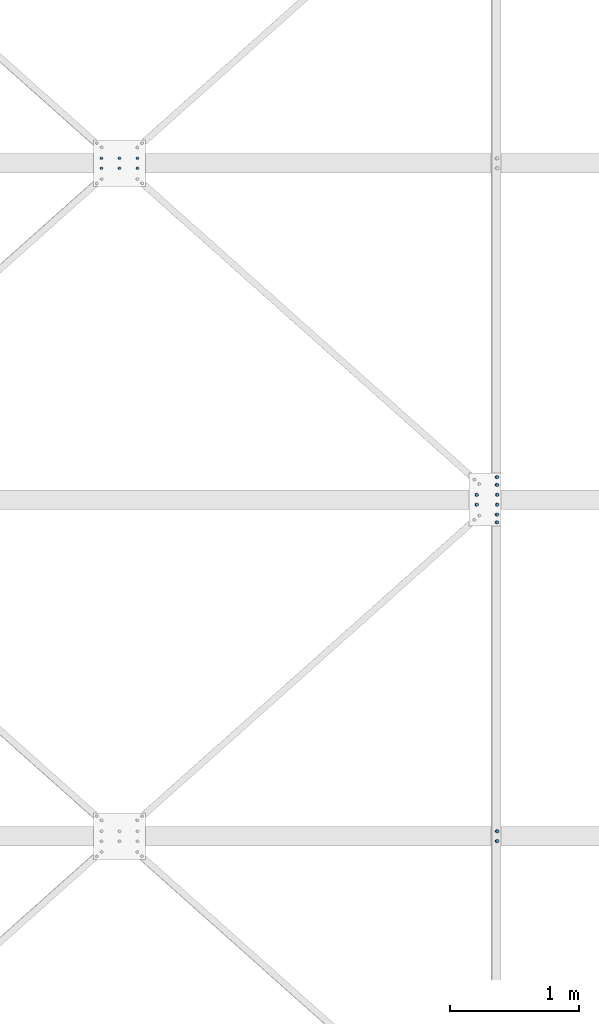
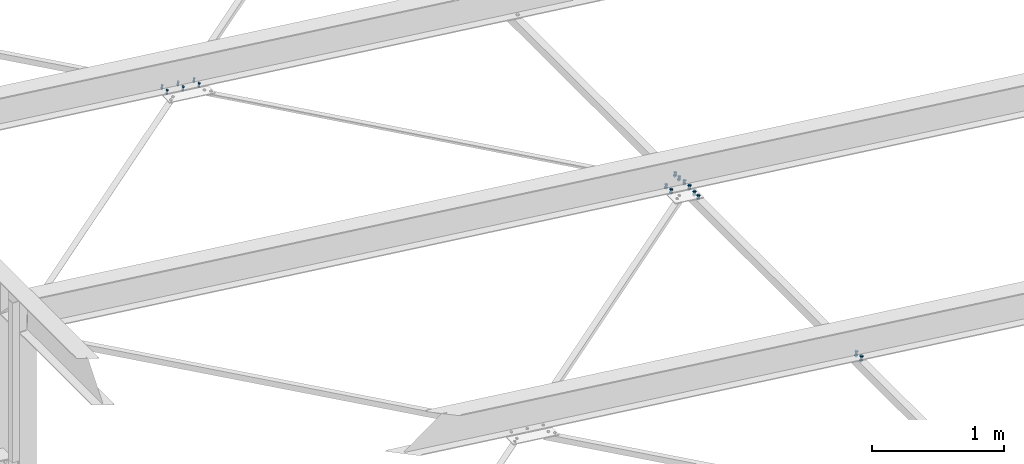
# One storey, part 144 of 3134: 5 mechanical fasteners, 4 elements without a shape of their own.
"""IFC2X3 building model written with IfcOpenShell, lengths in millimetres."""

import ifcopenshell
import ifcopenshell.guid

model = None  # the IFC model being written
_history = None  # IfcOwnerHistory: only IFC2X3 demands one
_inside = {}  # id of a spatial element -> (the spatial element, [elements in it])
_under = {}  # id of a project, library or spatial element -> (it, [spatial elements below it])
_declared = {}  # id of a project -> (the project, [libraries it declares])
_typed = {}  # id of a type object -> (the type object, [elements of that type])
_made_of = {}  # id of a material, layer set ... -> (it, [elements and type objects made of it])


def new_model(schema):
    """Start an empty IFC model of exactly this schema.

    Asked for "IFC4X3", IfcOpenShell would pick the latest addendum, in which some entities
    have other attributes; the version numbers below select the first issue.
    IFC2X3 requires an IfcOwnerHistory on every rooted entity: one is made here for all.
    """
    global model, _history
    if schema == "IFC4X3":
        model = ifcopenshell.file(schema_version=(4, 3, 0, 0))
    else:
        model = ifcopenshell.file(schema=schema)
    _inside.clear()
    _under.clear()
    _declared.clear()
    _typed.clear()
    _made_of.clear()
    _history = None
    if model.schema == "IFC2X3":
        org = make("IfcOrganization", Name="unknown")
        user = make(
            "IfcPersonAndOrganization",
            ThePerson=make("IfcPerson", FamilyName="unknown"),
            TheOrganization=org,
        )
        app = make(
            "IfcApplication",
            ApplicationDeveloper=org,
            Version="unknown",
            ApplicationFullName="unknown",
            ApplicationIdentifier="unknown",
        )
        _history = make(
            "IfcOwnerHistory",
            OwningUser=user,
            OwningApplication=app,
            ChangeAction="ADDED",
            CreationDate=0,
        )
    return model


def make(cls, **values):
    """One entity of the class cls with the attributes given. An attribute that is None is left unset."""
    return model.create_entity(
        cls, **{name: value for name, value in values.items() if value is not None}
    )


def rooted(cls, **values):
    """An entity with a GlobalId (a new one), such as an element, a storey or a relation."""
    return make(cls, GlobalId=ifcopenshell.guid.new(), OwnerHistory=_history, **values)


def si_unit(unit_type, name, prefix=None):
    """IfcSIUnit, for example si_unit("LENGTHUNIT", "METRE", prefix="MILLI")."""
    return make("IfcSIUnit", UnitType=unit_type, Prefix=prefix, Name=name)


def assignment(units):
    """IfcUnitAssignment: the units of a project."""
    return None if units is None else make("IfcUnitAssignment", Units=units)


def point(xyz):
    """IfcCartesianPoint."""
    return None if xyz is None else make("IfcCartesianPoint", Coordinates=xyz)


def direction(xyz):
    """IfcDirection."""
    return None if xyz is None else make("IfcDirection", DirectionRatios=xyz)


def frame(location, z_axis=None, x_axis=None):
    """IfcAxis2Placement3D, a coordinate frame: its origin and axes. An axis left out is left unset."""
    return make(
        "IfcAxis2Placement3D",
        Location=point(location),
        Axis=direction(z_axis),
        RefDirection=direction(x_axis),
    )


def origin_with_axes():
    """The frame at (0, 0, 0) with the z axis (0, 0, 1) and the x axis (1, 0, 0) written out."""
    return frame((0.0, 0.0, 0.0), z_axis=(0.0, 0.0, 1.0), x_axis=(1.0, 0.0, 0.0))


def place(relative_to, where):
    """IfcLocalPlacement: puts the frame where relative to a parent placement (None: the world)."""
    return make(
        "IfcLocalPlacement", PlacementRelTo=relative_to, RelativePlacement=where
    )


def context(
    kind, dimensions, precision=None, world=None, true_north=None, identifier=None
):
    """IfcGeometricRepresentationContext, for example the 3D "Model" context."""
    return make(
        "IfcGeometricRepresentationContext",
        ContextIdentifier=identifier,
        ContextType=kind,
        CoordinateSpaceDimension=dimensions,
        Precision=precision,
        WorldCoordinateSystem=world,
        TrueNorth=true_north,
    )


def subcontext(parent, identifier, kind, view, scale=None):
    """IfcGeometricRepresentationSubContext, for example "Body" below "Model"."""
    return make(
        "IfcGeometricRepresentationSubContext",
        ContextIdentifier=identifier,
        ContextType=kind,
        ParentContext=parent,
        TargetScale=scale,
        TargetView=view,
    )


def project(units=None, contexts=None):
    """IfcProject with its units and contexts."""
    return rooted(
        "IfcProject",
        Name="project",
        RepresentationContexts=contexts,
        UnitsInContext=assignment(units),
    )


def spatial(cls, under=None, at=None, **own):
    """A site, building, storey or space (cls), placed at a placement, below another one or the project."""
    s = rooted(cls, ObjectPlacement=at, **own)
    if under is not None:
        _under.setdefault(under.id(), (under, []))[1].append(s)
    return s


def faces_of(points, faces, orient=None, outer=None):
    """IfcFace entities. A face is a list of loops; a loop is a list of indices into points, from 0.

    orient and outer hold one flag for each loop. By default every Orientation is true, the
    first loop of a face is its IfcFaceOuterBound and the others are IfcFaceBound.
    """
    made = []
    for i, loops in enumerate(faces):
        bounds = []
        for j, loop in enumerate(loops):
            is_outer = j == 0 if outer is None else outer[i][j]
            bounds.append(
                make(
                    "IfcFaceOuterBound" if is_outer else "IfcFaceBound",
                    Bound=make("IfcPolyLoop", Polygon=[points[k] for k in loop]),
                    Orientation=True if orient is None else orient[i][j],
                )
            )
        made.append(make("IfcFace", Bounds=bounds))
    return made


def faceted_brep(points, faces, orient=None, outer=None, voids=None):
    """IfcFacetedBrep: a solid bounded by flat faces; with voids (closed shells), ...WithVoids."""
    shared = [point(p) for p in points]
    hull = make("IfcClosedShell", CfsFaces=faces_of(shared, faces, orient, outer))
    if voids is None:
        return make("IfcFacetedBrep", Outer=hull)
    return make(
        "IfcFacetedBrepWithVoids",
        Outer=hull,
        Voids=[
            make(cls, CfsFaces=faces_of(shared, fs, o, b)) for cls, fs, o, b in voids
        ],
    )


def shape(context_of_items, identifier, shape_type, items):
    """IfcShapeRepresentation: the items that make up one representation, for example the "Body"."""
    return make(
        "IfcShapeRepresentation",
        ContextOfItems=context_of_items,
        RepresentationIdentifier=identifier,
        RepresentationType=shape_type,
        Items=items,
    )


def source(mapping_origin, context_of_items, identifier, shape_type, items):
    """IfcRepresentationMap: a shape defined once, which mapped items show again and again."""
    return make(
        "IfcRepresentationMap",
        MappingOrigin=mapping_origin,
        MappedRepresentation=shape(context_of_items, identifier, shape_type, items),
    )


def transform(
    local_origin,
    x_axis=None,
    y_axis=None,
    z_axis=None,
    scale=None,
    scale2=None,
    scale3=None,
    uniform=True,
):
    """IfcCartesianTransformationOperator3D, or its non-uniform kind. x_axis, y_axis, z_axis: its Axis1, 2, 3."""
    if uniform:
        return make(
            "IfcCartesianTransformationOperator3D",
            Axis1=direction(x_axis),
            Axis2=direction(y_axis),
            LocalOrigin=point(local_origin),
            Scale=scale,
            Axis3=direction(z_axis),
        )
    return make(
        "IfcCartesianTransformationOperator3DnonUniform",
        Axis1=direction(x_axis),
        Axis2=direction(y_axis),
        LocalOrigin=point(local_origin),
        Scale=scale,
        Axis3=direction(z_axis),
        Scale2=scale2,
        Scale3=scale3,
    )


def mapped(mapping_source, mapping_target):
    """IfcMappedItem: shows the shape of a source again, moved by a transform."""
    return make(
        "IfcMappedItem", MappingSource=mapping_source, MappingTarget=mapping_target
    )


def material(Name=None, Category=None):
    """IfcMaterial."""
    return make("IfcMaterial", Name=Name, Category=Category)


def made_of(thing, what):
    """Note that an element or type object is made of a material, layer set ...; save() writes the relation."""
    if what is not None:
        _made_of.setdefault(what.id(), (what, []))[1].append(thing)
    return thing


def type_object(cls, material=None, **own):
    """A type object (cls), such as IfcWallType, which elements share."""
    return made_of(rooted(cls, **own), material)


def element(
    cls,
    number,
    at=None,
    inside=None,
    cuts=None,
    type_object=None,
    material=None,
    context=None,
    identifier="Body",
    shape_type=None,
    held_by="IfcProductDefinitionShape",
    body=None,
    shapes=None,
    **own,
):
    """One element of the class cls, such as IfcWall. Its Tag is "e" and its number.

    at: its placement. inside: the storey or other place that contains it. cuts: it is an
    opening in that element (IfcRelVoidsElement). A single representation is given by context,
    identifier, shape_type and body (its items); several are given by shapes. held_by: the class
    of the entity that holds the representations. save() writes the other relations.
    """
    e = rooted(cls, Tag="e%d" % number, ObjectPlacement=at, **own)
    if body is not None:
        shapes = [shape(context, identifier, shape_type, body)]
    if shapes is not None:
        e.Representation = make(held_by, Representations=shapes)
    if inside is not None:
        _inside.setdefault(inside.id(), (inside, []))[1].append(e)
    if cuts is not None:
        rooted(
            "IfcRelVoidsElement", RelatingBuildingElement=cuts, RelatedOpeningElement=e
        )
    if type_object is not None:
        _typed.setdefault(type_object.id(), (type_object, []))[1].append(e)
    return made_of(e, material)


def aggregate(whole, parts):
    """IfcRelAggregates: a whole, such as a stair, and the parts it consists of."""
    return rooted("IfcRelAggregates", RelatingObject=whole, RelatedObjects=parts)


def save(model, path):
    """Write the relations noted so far, then the file.

    IfcRelAggregates (storeys below a building ...), IfcRelContainedInSpatialStructure (elements
    in a storey), IfcRelDefinesByType, IfcRelAssociatesMaterial and IfcRelDeclares: one each for
    every whole, place, type object, material and project.
    """
    for whole, parts in _under.values():
        aggregate(whole, parts)
    for where, things in _inside.values():
        rooted(
            "IfcRelContainedInSpatialStructure",
            RelatedElements=things,
            RelatingStructure=where,
        )
    for kind, things in _typed.values():
        rooted("IfcRelDefinesByType", RelatedObjects=things, RelatingType=kind)
    for what, things in _made_of.values():
        rooted("IfcRelAssociatesMaterial", RelatedObjects=things, RelatingMaterial=what)
    for by, libraries in _declared.values():
        rooted("IfcRelDeclares", RelatingContext=by, RelatedDefinitions=libraries)
    model.write(path)


model = new_model("IFC2X3")

# Units and contexts
model_context = context("Model", 3, precision=1e-05, world=origin_with_axes())
body_context = subcontext(model_context, "Body", "Model", "MODEL_VIEW")
ifc_project = project(units=[si_unit("LENGTHUNIT", "METRE", prefix="MILLI"), si_unit("AREAUNIT", "SQUARE_METRE"), si_unit("VOLUMEUNIT", "CUBIC_METRE"), si_unit("MASSUNIT", "GRAM", prefix="KILO"), si_unit("TIMEUNIT", "SECOND"), si_unit("PLANEANGLEUNIT", "RADIAN"), si_unit("SOLIDANGLEUNIT", "STERADIAN"), si_unit("THERMODYNAMICTEMPERATUREUNIT", "DEGREE_CELSIUS"), si_unit("LUMINOUSINTENSITYUNIT", "LUMEN")], contexts=[model_context])

# Site, building, storey
site_placement = place(None, origin_with_axes())
site = spatial("IfcSite", under=ifc_project, at=site_placement, CompositionType="ELEMENT")
building_placement = place(site_placement, origin_with_axes())
building = spatial("IfcBuilding", under=site, at=building_placement, Name="Undefined", CompositionType="ELEMENT")
storey_placement = place(building_placement, origin_with_axes())
storey = spatial("IfcBuildingStorey", under=building, at=storey_placement, Name="Undefined", CompositionType="ELEMENT", Elevation=0.0)

# Assembly, mechanical fastener
assembly_1_placement = place(storey_placement, origin_with_axes())
assembly_1 = element("IfcElementAssembly", 1, at=assembly_1_placement, inside=storey, Name="300", AssemblyPlace="NOTDEFINED", PredefinedType="RIGID_FRAME")
ifc_material = material(Name="8.8")
mechanical_fastener_type = type_object("IfcMechanicalFastenerType", Name="Bolt assembly")
shared_shape_1 = source(origin_with_axes(), body_context, "Body", "Brep", [
    faceted_brep([(13.856406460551, -19.199990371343, 0.0), (6.92820323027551, -19.199990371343, 12.0), (-6.92820323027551, -19.199990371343, 12.0), (-13.856406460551, -19.199990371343, 1.69692038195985e-15), (-6.92820323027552, -19.199990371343, -12.0), (6.9282032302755, -19.199990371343, -12.0), (6.9282032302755, -9.19999037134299, -12.0), (-6.92820323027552, -9.19999037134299, -12.0), (-13.856406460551, -9.19999037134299, 1.69692038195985e-15), (-6.92820323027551, -9.19999037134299, 12.0), (6.92820323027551, -9.19999037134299, 12.0), (13.856406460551, -9.19999037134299, 0.0), (8.0, -9.19999037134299, 0.0), (6.92820323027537, -9.19999037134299, 4.00000000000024), (3.99999999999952, -9.19999037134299, 6.92820323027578), (-8.29068785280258e-13, -9.19999037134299, 8.0), (-4.00000000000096, -9.19999037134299, 6.92820323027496), (-6.9282032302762, -9.19999037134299, 3.99999999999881), (-8.0, -9.19999037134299, -1.65813757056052e-12), (-6.92820323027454, -9.19999037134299, -4.00000000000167), (-3.99999999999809, -9.19999037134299, -6.92820323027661), (2.47832457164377e-12, -9.19999037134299, -8.0), (4.00000000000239, -9.19999037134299, -6.92820323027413), (6.92820323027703, -9.19999037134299, -3.99999999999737), (6.92820323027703, 25.800009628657, -3.99999999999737), (4.00000000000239, 25.800009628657, -6.92820323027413), (2.47832457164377e-12, 25.800009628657, -8.0), (-3.99999999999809, 25.800009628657, -6.92820323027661), (-6.92820323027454, 25.800009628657, -4.00000000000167), (-8.0, 25.800009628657, -1.65813757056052e-12), (-6.9282032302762, 25.800009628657, 3.99999999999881), (-4.00000000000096, 25.800009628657, 6.92820323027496), (-8.29068785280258e-13, 25.800009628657, 8.0), (3.99999999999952, 25.800009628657, 6.92820323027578), (6.92820323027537, 25.800009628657, 4.00000000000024), (8.0, 25.800009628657, 0.0), (13.856406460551, 8.00000637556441, 0.0), (6.92820323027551, 8.00000637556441, 12.0), (-6.92820323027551, 8.00000637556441, 12.0), (-13.856406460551, 8.00000637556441, 1.69692038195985e-15), (-6.92820323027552, 8.00000637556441, -12.0), (6.9282032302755, 8.00000637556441, -12.0), (6.9282032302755, 21.0000063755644, -12.0), (-6.92820323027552, 21.0000063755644, -12.0), (-13.856406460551, 21.0000063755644, 1.69692038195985e-15), (-6.92820323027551, 21.0000063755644, 12.0), (6.92820323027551, 21.0000063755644, 12.0), (13.856406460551, 21.0000063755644, 0.0)], [[[0, 1, 2, 3, 4, 5]], [[6, 7, 8, 9, 10, 11]], [[0, 11, 10, 1]], [[1, 10, 9, 2]], [[2, 9, 8, 3]], [[3, 8, 7, 4]], [[4, 7, 6, 5]], [[5, 6, 11, 0]], [[12, 13, 14, 15, 16, 17, 18, 19, 20, 21, 22, 23]], [[24, 25, 26, 27, 28, 29, 30, 31, 32, 33, 34, 35]], [[12, 35, 34, 13]], [[13, 34, 33, 14]], [[14, 33, 32, 15]], [[15, 32, 31, 16]], [[16, 31, 30, 17]], [[17, 30, 29, 18]], [[18, 29, 28, 19]], [[19, 28, 27, 20]], [[20, 27, 26, 21]], [[21, 26, 25, 22]], [[22, 25, 24, 23]], [[23, 24, 35, 12]], [[36, 37, 38, 39, 40, 41]], [[42, 43, 44, 45, 46, 47]], [[36, 47, 46, 37]], [[37, 46, 45, 38]], [[38, 45, 44, 39]], [[39, 44, 43, 40]], [[40, 43, 42, 41]], [[41, 42, 47, 36]]]),
    faceted_brep([(9.0, -0.1, 0.0), (7.79422863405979, -0.1, 4.50000000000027), (4.49999999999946, -0.1, 7.79422863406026), (-9.3270238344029e-13, -0.1, 9.0), (-4.50000000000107, -0.1, 7.79422863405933), (-7.79422863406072, -0.1, 4.49999999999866), (-9.0, -0.1, -1.86540476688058e-12), (-7.79422863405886, -0.1, -4.50000000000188), (-4.49999999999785, -0.1, -7.79422863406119), (2.78811514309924e-12, -0.1, -9.0), (4.50000000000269, -0.1, -7.7942286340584), (7.79422863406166, -0.1, -4.49999999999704), (7.79422863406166, 8.00000000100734, -4.49999999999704), (4.50000000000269, 8.00000000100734, -7.7942286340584), (2.78811514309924e-12, 8.00000000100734, -9.0), (-4.49999999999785, 8.00000000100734, -7.79422863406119), (-7.79422863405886, 8.00000000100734, -4.50000000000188), (-9.0, 8.00000000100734, -1.86540476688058e-12), (-7.79422863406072, 8.00000000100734, 4.49999999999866), (-4.50000000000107, 8.00000000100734, 7.79422863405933), (-9.3270238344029e-13, 8.00000000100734, 9.0), (4.49999999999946, 8.00000000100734, 7.79422863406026), (7.79422863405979, 8.00000000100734, 4.50000000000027), (9.0, 8.00000000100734, 0.0), (9.0, -9.09999037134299, 0.0), (7.79422863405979, -9.09999037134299, 4.50000000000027), (4.49999999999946, -9.09999037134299, 7.79422863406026), (-9.3270238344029e-13, -9.09999037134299, 9.0), (-4.50000000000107, -9.09999037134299, 7.79422863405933), (-7.79422863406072, -9.09999037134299, 4.49999999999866), (-9.0, -9.09999037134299, -1.86540476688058e-12), (-7.79422863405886, -9.09999037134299, -4.50000000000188), (-4.49999999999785, -9.09999037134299, -7.79422863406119), (2.78811514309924e-12, -9.09999037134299, -9.0), (4.50000000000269, -9.09999037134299, -7.7942286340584), (7.79422863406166, -9.09999037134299, -4.49999999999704), (7.79422863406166, 0.100000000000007, -4.49999999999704), (4.50000000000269, 0.100000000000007, -7.7942286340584), (2.78811514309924e-12, 0.100000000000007, -9.0), (-4.49999999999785, 0.100000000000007, -7.79422863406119), (-7.79422863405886, 0.100000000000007, -4.50000000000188), (-9.0, 0.100000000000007, -1.86540476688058e-12), (-7.79422863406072, 0.100000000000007, 4.49999999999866), (-4.50000000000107, 0.100000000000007, 7.79422863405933), (-9.3270238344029e-13, 0.100000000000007, 9.0), (4.49999999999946, 0.100000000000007, 7.79422863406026), (7.79422863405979, 0.100000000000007, 4.50000000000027), (9.0, 0.100000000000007, 0.0)], [[[0, 1, 2, 3, 4, 5, 6, 7, 8, 9, 10, 11]], [[12, 13, 14, 15, 16, 17, 18, 19, 20, 21, 22, 23]], [[0, 23, 22, 1]], [[1, 22, 21, 2]], [[2, 21, 20, 3]], [[3, 20, 19, 4]], [[4, 19, 18, 5]], [[5, 18, 17, 6]], [[6, 17, 16, 7]], [[7, 16, 15, 8]], [[8, 15, 14, 9]], [[9, 14, 13, 10]], [[10, 13, 12, 11]], [[11, 12, 23, 0]], [[24, 25, 26, 27, 28, 29, 30, 31, 32, 33, 34, 35]], [[36, 37, 38, 39, 40, 41, 42, 43, 44, 45, 46, 47]], [[24, 47, 46, 25]], [[25, 46, 45, 26]], [[26, 45, 44, 27]], [[27, 44, 43, 28]], [[28, 43, 42, 29]], [[29, 42, 41, 30]], [[30, 41, 40, 31]], [[31, 40, 39, 32]], [[32, 39, 38, 33]], [[33, 38, 37, 34]], [[34, 37, 36, 35]], [[35, 36, 47, 24]]]),
])
mechanical_fastener_1_placement = place(assembly_1_placement, frame((38283.5751064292, 24612.0, 4816.43281405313), z_axis=(-0.992623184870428, 0.0, 0.121240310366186), x_axis=(0.0, 1.0, 0.0)))
mechanical_fastener_1 = element("IfcMechanicalFastener", 2, at=mechanical_fastener_1_placement, type_object=mechanical_fastener_type, material=ifc_material, Name="Bolt assembly", NominalDiameter=16.0, NominalLength=35.0, context=body_context, shape_type="MappedRepresentation", body=[
    mapped(shared_shape_1, transform((0.0, -5.32963895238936e-10, -79.9999999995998))),
    mapped(shared_shape_1, transform((76.0, -5.32963895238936e-10, -79.9999999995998))),
    mapped(shared_shape_1, transform((0.0, 5.3114490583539e-10, 79.9999999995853))),
    mapped(shared_shape_1, transform((76.0, 5.3114490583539e-10, 79.9999999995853))),
])
aggregate(assembly_1, [mechanical_fastener_1])

assembly_2_placement = place(storey_placement, origin_with_axes())
assembly_2 = element("IfcElementAssembly", 3, at=assembly_2_placement, inside=storey, AssemblyPlace="NOTDEFINED", PredefinedType="RIGID_FRAME")
shared_shape_2 = source(origin_with_axes(), body_context, "Body", "Brep", [
    faceted_brep([(13.856406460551, -19.199990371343, 0.0), (6.92820323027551, -19.199990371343, 12.0), (-6.92820323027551, -19.199990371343, 12.0), (-13.856406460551, -19.199990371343, 1.69692038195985e-15), (-6.92820323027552, -19.199990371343, -12.0), (6.9282032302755, -19.199990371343, -12.0), (6.9282032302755, -9.19999037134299, -12.0), (-6.92820323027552, -9.19999037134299, -12.0), (-13.856406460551, -9.19999037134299, 1.69692038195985e-15), (-6.92820323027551, -9.19999037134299, 12.0), (6.92820323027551, -9.19999037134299, 12.0), (13.856406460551, -9.19999037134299, 0.0), (8.0, -9.19999037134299, 0.0), (6.92820323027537, -9.19999037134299, 4.00000000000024), (3.99999999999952, -9.19999037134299, 6.92820323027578), (-8.29068785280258e-13, -9.19999037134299, 8.0), (-4.00000000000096, -9.19999037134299, 6.92820323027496), (-6.9282032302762, -9.19999037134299, 3.99999999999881), (-8.0, -9.19999037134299, -1.65813757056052e-12), (-6.92820323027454, -9.19999037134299, -4.00000000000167), (-3.99999999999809, -9.19999037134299, -6.92820323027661), (2.47832457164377e-12, -9.19999037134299, -8.0), (4.00000000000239, -9.19999037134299, -6.92820323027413), (6.92820323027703, -9.19999037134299, -3.99999999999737), (6.92820323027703, 35.8000002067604, -3.99999999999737), (4.00000000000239, 35.8000002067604, -6.92820323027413), (2.47832457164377e-12, 35.8000002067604, -8.0), (-3.99999999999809, 35.8000002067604, -6.92820323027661), (-6.92820323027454, 35.8000002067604, -4.00000000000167), (-8.0, 35.8000002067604, -1.65813757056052e-12), (-6.9282032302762, 35.8000002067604, 3.99999999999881), (-4.00000000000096, 35.8000002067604, 6.92820323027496), (-8.29068785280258e-13, 35.8000002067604, 8.0), (3.99999999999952, 35.8000002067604, 6.92820323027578), (6.92820323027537, 35.8000002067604, 4.00000000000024), (8.0, 35.8000002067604, 0.0), (13.856406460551, 14.9999995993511, 0.0), (6.92820323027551, 14.9999995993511, 12.0), (-6.92820323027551, 14.9999995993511, 12.0), (-13.856406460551, 14.9999995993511, 1.69692038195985e-15), (-6.92820323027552, 14.9999995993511, -12.0), (6.9282032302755, 14.9999995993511, -12.0), (6.9282032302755, 27.9999995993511, -12.0), (-6.92820323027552, 27.9999995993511, -12.0), (-13.856406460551, 27.9999995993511, 1.69692038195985e-15), (-6.92820323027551, 27.9999995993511, 12.0), (6.92820323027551, 27.9999995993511, 12.0), (13.856406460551, 27.9999995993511, 0.0)], [[[0, 1, 2, 3, 4, 5]], [[6, 7, 8, 9, 10, 11]], [[0, 11, 10, 1]], [[1, 10, 9, 2]], [[2, 9, 8, 3]], [[3, 8, 7, 4]], [[4, 7, 6, 5]], [[5, 6, 11, 0]], [[12, 13, 14, 15, 16, 17, 18, 19, 20, 21, 22, 23]], [[24, 25, 26, 27, 28, 29, 30, 31, 32, 33, 34, 35]], [[12, 35, 34, 13]], [[13, 34, 33, 14]], [[14, 33, 32, 15]], [[15, 32, 31, 16]], [[16, 31, 30, 17]], [[17, 30, 29, 18]], [[18, 29, 28, 19]], [[19, 28, 27, 20]], [[20, 27, 26, 21]], [[21, 26, 25, 22]], [[22, 25, 24, 23]], [[23, 24, 35, 12]], [[36, 37, 38, 39, 40, 41]], [[42, 43, 44, 45, 46, 47]], [[36, 47, 46, 37]], [[37, 46, 45, 38]], [[38, 45, 44, 39]], [[39, 44, 43, 40]], [[40, 43, 42, 41]], [[41, 42, 47, 36]]]),
    faceted_brep([(9.0, -9.09999037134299, 0.0), (7.79422863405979, -9.09999037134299, 4.50000000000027), (4.49999999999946, -9.09999037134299, 7.79422863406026), (-9.3270238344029e-13, -9.09999037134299, 9.0), (-4.50000000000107, -9.09999037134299, 7.79422863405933), (-7.79422863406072, -9.09999037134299, 4.49999999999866), (-9.0, -9.09999037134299, -1.86540476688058e-12), (-7.79422863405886, -9.09999037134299, -4.50000000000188), (-4.49999999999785, -9.09999037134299, -7.79422863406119), (2.78811514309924e-12, -9.09999037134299, -9.0), (4.50000000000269, -9.09999037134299, -7.7942286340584), (7.79422863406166, -9.09999037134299, -4.49999999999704), (7.79422863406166, 0.100000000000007, -4.49999999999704), (4.50000000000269, 0.100000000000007, -7.7942286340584), (2.78811514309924e-12, 0.100000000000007, -9.0), (-4.49999999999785, 0.100000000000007, -7.79422863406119), (-7.79422863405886, 0.100000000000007, -4.50000000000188), (-9.0, 0.100000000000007, -1.86540476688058e-12), (-7.79422863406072, 0.100000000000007, 4.49999999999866), (-4.50000000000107, 0.100000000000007, 7.79422863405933), (-9.3270238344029e-13, 0.100000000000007, 9.0), (4.49999999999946, 0.100000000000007, 7.79422863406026), (7.79422863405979, 0.100000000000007, 4.50000000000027), (9.0, 0.100000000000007, 0.0), (9.0, 7.9, 0.0), (7.79422863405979, 7.9, 4.50000000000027), (4.49999999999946, 7.9, 7.79422863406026), (-9.3270238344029e-13, 7.9, 9.0), (-4.50000000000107, 7.9, 7.79422863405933), (-7.79422863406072, 7.9, 4.49999999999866), (-9.0, 7.9, -1.86540476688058e-12), (-7.79422863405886, 7.9, -4.50000000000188), (-4.49999999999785, 7.9, -7.79422863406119), (2.78811514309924e-12, 7.9, -9.0), (4.50000000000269, 7.9, -7.7942286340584), (7.79422863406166, 7.9, -4.49999999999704), (7.79422863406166, 14.9999995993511, -4.49999999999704), (4.50000000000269, 14.9999995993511, -7.7942286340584), (2.78811514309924e-12, 14.9999995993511, -9.0), (-4.49999999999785, 14.9999995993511, -7.79422863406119), (-7.79422863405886, 14.9999995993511, -4.50000000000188), (-9.0, 14.9999995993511, -1.86540476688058e-12), (-7.79422863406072, 14.9999995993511, 4.49999999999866), (-4.50000000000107, 14.9999995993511, 7.79422863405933), (-9.3270238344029e-13, 14.9999995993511, 9.0), (4.49999999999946, 14.9999995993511, 7.79422863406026), (7.79422863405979, 14.9999995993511, 4.50000000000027), (9.0, 14.9999995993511, 0.0)], [[[0, 1, 2, 3, 4, 5, 6, 7, 8, 9, 10, 11]], [[12, 13, 14, 15, 16, 17, 18, 19, 20, 21, 22, 23]], [[0, 23, 22, 1]], [[1, 22, 21, 2]], [[2, 21, 20, 3]], [[3, 20, 19, 4]], [[4, 19, 18, 5]], [[5, 18, 17, 6]], [[6, 17, 16, 7]], [[7, 16, 15, 8]], [[8, 15, 14, 9]], [[9, 14, 13, 10]], [[10, 13, 12, 11]], [[11, 12, 23, 0]], [[24, 25, 26, 27, 28, 29, 30, 31, 32, 33, 34, 35]], [[36, 37, 38, 39, 40, 41, 42, 43, 44, 45, 46, 47]], [[24, 47, 46, 25]], [[25, 46, 45, 26]], [[26, 45, 44, 27]], [[27, 44, 43, 28]], [[28, 43, 42, 29]], [[29, 42, 41, 30]], [[30, 41, 40, 31]], [[31, 40, 39, 32]], [[32, 39, 38, 33]], [[33, 38, 37, 34]], [[34, 37, 36, 35]], [[35, 36, 47, 24]]]),
])
mechanical_fastener_2_placement = place(assembly_2_placement, frame((38362.9849612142, 22012.0, 4806.73358922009), z_axis=(-0.992623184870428, 0.0, 0.121240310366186), x_axis=(0.0, 1.0, 0.0)))
mechanical_fastener_2 = element("IfcMechanicalFastener", 4, at=mechanical_fastener_2_placement, type_object=mechanical_fastener_type, material=ifc_material, Name="Bolt assembly", NominalDiameter=16.0, NominalLength=45.0, context=body_context, shape_type="MappedRepresentation", body=[
    mapped(shared_shape_2, transform((0.0, 0.0, 0.0))),
    mapped(shared_shape_2, transform((76.0, 0.0, 0.0))),
])
aggregate(assembly_2, [mechanical_fastener_2])

# Assembly, mechanical fasteners
assembly_3_placement = place(storey_placement, origin_with_axes())
assembly_3 = element("IfcElementAssembly", 5, at=assembly_3_placement, inside=storey, Name="PL8", AssemblyPlace="NOTDEFINED", PredefinedType="RIGID_FRAME")
shared_shape_3 = source(origin_with_axes(), body_context, "Body", "Brep", [
    faceted_brep([(13.856406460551, -10.0, 0.0), (6.92820323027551, -10.0, 12.0), (-6.92820323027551, -10.0, 12.0), (-13.856406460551, -10.0, 1.69692038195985e-15), (-6.92820323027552, -10.0, -12.0), (6.9282032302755, -10.0, -12.0), (6.9282032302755, 0.0, -12.0), (-6.92820323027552, 0.0, -12.0), (-13.856406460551, 0.0, 1.69692038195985e-15), (-6.92820323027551, 0.0, 12.0), (6.92820323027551, 0.0, 12.0), (13.856406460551, 0.0, 0.0), (8.0, 0.0, 0.0), (6.92820323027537, 0.0, 4.00000000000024), (3.99999999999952, 0.0, 6.92820323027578), (-8.29068785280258e-13, 0.0, 8.0), (-4.00000000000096, 0.0, 6.92820323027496), (-6.9282032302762, 0.0, 3.99999999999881), (-8.0, 0.0, -1.65813757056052e-12), (-6.92820323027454, 0.0, -4.00000000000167), (-3.99999999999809, 0.0, -6.92820323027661), (2.47832457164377e-12, 0.0, -8.0), (4.00000000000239, 0.0, -6.92820323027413), (6.92820323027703, 0.0, -3.99999999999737), (6.92820323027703, 35.0000000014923, -3.99999999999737), (4.00000000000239, 35.0000000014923, -6.92820323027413), (2.47832457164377e-12, 35.0000000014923, -8.0), (-3.99999999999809, 35.0000000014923, -6.92820323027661), (-6.92820323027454, 35.0000000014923, -4.00000000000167), (-8.0, 35.0000000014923, -1.65813757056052e-12), (-6.9282032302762, 35.0000000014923, 3.99999999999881), (-4.00000000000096, 35.0000000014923, 6.92820323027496), (-8.29068785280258e-13, 35.0000000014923, 8.0), (3.99999999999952, 35.0000000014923, 6.92820323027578), (6.92820323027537, 35.0000000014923, 4.00000000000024), (8.0, 35.0000000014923, 0.0), (13.856406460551, 14.9999995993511, 0.0), (6.92820323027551, 14.9999995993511, 12.0), (-6.92820323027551, 14.9999995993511, 12.0), (-13.856406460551, 14.9999995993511, 1.69692038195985e-15), (-6.92820323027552, 14.9999995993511, -12.0), (6.9282032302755, 14.9999995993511, -12.0), (6.9282032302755, 27.9999995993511, -12.0), (-6.92820323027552, 27.9999995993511, -12.0), (-13.856406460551, 27.9999995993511, 1.69692038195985e-15), (-6.92820323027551, 27.9999995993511, 12.0), (6.92820323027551, 27.9999995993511, 12.0), (13.856406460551, 27.9999995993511, 0.0)], [[[0, 1, 2, 3, 4, 5]], [[6, 7, 8, 9, 10, 11]], [[0, 11, 10, 1]], [[1, 10, 9, 2]], [[2, 9, 8, 3]], [[3, 8, 7, 4]], [[4, 7, 6, 5]], [[5, 6, 11, 0]], [[12, 13, 14, 15, 16, 17, 18, 19, 20, 21, 22, 23]], [[24, 25, 26, 27, 28, 29, 30, 31, 32, 33, 34, 35]], [[12, 35, 34, 13]], [[13, 34, 33, 14]], [[14, 33, 32, 15]], [[15, 32, 31, 16]], [[16, 31, 30, 17]], [[17, 30, 29, 18]], [[18, 29, 28, 19]], [[19, 28, 27, 20]], [[20, 27, 26, 21]], [[21, 26, 25, 22]], [[22, 25, 24, 23]], [[23, 24, 35, 12]], [[36, 37, 38, 39, 40, 41]], [[42, 43, 44, 45, 46, 47]], [[36, 47, 46, 37]], [[37, 46, 45, 38]], [[38, 45, 44, 39]], [[39, 44, 43, 40]], [[40, 43, 42, 41]], [[41, 42, 47, 36]]]),
    faceted_brep([(9.0, 7.9, 0.0), (7.79422863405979, 7.9, 4.50000000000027), (4.49999999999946, 7.9, 7.79422863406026), (-9.3270238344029e-13, 7.9, 9.0), (-4.50000000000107, 7.9, 7.79422863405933), (-7.79422863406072, 7.9, 4.49999999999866), (-9.0, 7.9, -1.86540476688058e-12), (-7.79422863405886, 7.9, -4.50000000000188), (-4.49999999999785, 7.9, -7.79422863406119), (2.78811514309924e-12, 7.9, -9.0), (4.50000000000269, 7.9, -7.7942286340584), (7.79422863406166, 7.9, -4.49999999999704), (7.79422863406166, 14.9999995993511, -4.49999999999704), (4.50000000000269, 14.9999995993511, -7.7942286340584), (2.78811514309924e-12, 14.9999995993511, -9.0), (-4.49999999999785, 14.9999995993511, -7.79422863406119), (-7.79422863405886, 14.9999995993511, -4.50000000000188), (-9.0, 14.9999995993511, -1.86540476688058e-12), (-7.79422863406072, 14.9999995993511, 4.49999999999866), (-4.50000000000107, 14.9999995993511, 7.79422863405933), (-9.3270238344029e-13, 14.9999995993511, 9.0), (4.49999999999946, 14.9999995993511, 7.79422863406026), (7.79422863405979, 14.9999995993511, 4.50000000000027), (9.0, 14.9999995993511, 0.0), (9.0, 0.100000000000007, 0.0), (7.79422863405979, 0.100000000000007, 4.50000000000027), (4.49999999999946, 0.100000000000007, 7.79422863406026), (-9.3270238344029e-13, 0.100000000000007, 9.0), (-4.50000000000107, 0.100000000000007, 7.79422863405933), (-7.79422863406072, 0.100000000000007, 4.49999999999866), (-9.0, 0.100000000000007, -1.86540476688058e-12), (-7.79422863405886, 0.100000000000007, -4.50000000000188), (-4.49999999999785, 0.100000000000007, -7.79422863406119), (2.78811514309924e-12, 0.100000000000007, -9.0), (4.50000000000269, 0.100000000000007, -7.7942286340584), (7.79422863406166, 0.100000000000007, -4.49999999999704), (7.79422863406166, 8.1, -4.49999999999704), (4.50000000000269, 8.1, -7.7942286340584), (2.78811514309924e-12, 8.1, -9.0), (-4.49999999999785, 8.1, -7.79422863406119), (-7.79422863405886, 8.1, -4.50000000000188), (-9.0, 8.1, -1.86540476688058e-12), (-7.79422863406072, 8.1, 4.49999999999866), (-4.50000000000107, 8.1, 7.79422863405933), (-9.3270238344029e-13, 8.1, 9.0), (4.49999999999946, 8.1, 7.79422863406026), (7.79422863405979, 8.1, 4.50000000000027), (9.0, 8.1, 0.0)], [[[0, 1, 2, 3, 4, 5, 6, 7, 8, 9, 10, 11]], [[12, 13, 14, 15, 16, 17, 18, 19, 20, 21, 22, 23]], [[0, 23, 22, 1]], [[1, 22, 21, 2]], [[2, 21, 20, 3]], [[3, 20, 19, 4]], [[4, 19, 18, 5]], [[5, 18, 17, 6]], [[6, 17, 16, 7]], [[7, 16, 15, 8]], [[8, 15, 14, 9]], [[9, 14, 13, 10]], [[10, 13, 12, 11]], [[11, 12, 23, 0]], [[24, 25, 26, 27, 28, 29, 30, 31, 32, 33, 34, 35]], [[36, 37, 38, 39, 40, 41, 42, 43, 44, 45, 46, 47]], [[24, 47, 46, 25]], [[25, 46, 45, 26]], [[26, 45, 44, 27]], [[27, 44, 43, 28]], [[28, 43, 42, 29]], [[29, 42, 41, 30]], [[30, 41, 40, 31]], [[31, 40, 39, 32]], [[32, 39, 38, 33]], [[33, 38, 37, 34]], [[34, 37, 36, 35]], [[35, 36, 47, 24]]]),
])
mechanical_fastener_3_placement = place(assembly_3_placement, frame((38362.9849612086, 24825.0, 4806.73358922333), z_axis=(0.992623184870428, 0.0, -0.121240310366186), x_axis=(0.0, -1.0, 0.0)))
mechanical_fastener_3 = element("IfcMechanicalFastener", 6, at=mechanical_fastener_3_placement, type_object=mechanical_fastener_type, material=ifc_material, Name="Bolt assembly", NominalDiameter=16.0, NominalLength=35.0, context=body_context, shape_type="MappedRepresentation", body=[
    mapped(shared_shape_3, transform((0.0, 0.0, 0.0))),
    mapped(shared_shape_3, transform((59.9999999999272, 0.0, 5.40239852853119e-10))),
])
mechanical_fastener_4_placement = place(assembly_3_placement, frame((38362.9849612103, 24535.0, 4806.73358922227), z_axis=(0.992623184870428, 0.0, -0.121240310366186), x_axis=(0.0, -1.0, 0.0)))
mechanical_fastener_4 = element("IfcMechanicalFastener", 7, at=mechanical_fastener_4_placement, type_object=mechanical_fastener_type, material=ifc_material, Name="Bolt assembly", NominalDiameter=16.0, NominalLength=35.0, context=body_context, shape_type="MappedRepresentation", body=[
    mapped(shared_shape_3, transform((0.0, 0.0, 0.0))),
    mapped(shared_shape_3, transform((59.9999999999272, 0.0, 5.40239852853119e-10))),
])
aggregate(assembly_3, [mechanical_fastener_3, mechanical_fastener_4])

# Assembly, mechanical fastener
assembly_4_placement = place(storey_placement, origin_with_axes())
assembly_4 = element("IfcElementAssembly", 8, at=assembly_4_placement, inside=storey, Name="300", AssemblyPlace="NOTDEFINED", PredefinedType="RIGID_FRAME")
shared_shape_4 = source(origin_with_axes(), body_context, "Body", "Brep", [
    faceted_brep([(10.9696551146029, -17.1999998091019, 0.0), (5.48482755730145, -17.1999998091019, 9.5), (-5.48482755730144, -17.1999998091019, 9.5), (-10.9696551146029, -17.1999998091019, 1.34339530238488e-15), (-5.48482755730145, -17.1999998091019, -9.5), (5.48482755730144, -17.1999998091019, -9.50000000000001), (5.48482755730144, -9.19999978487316, -9.50000000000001), (-5.48482755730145, -9.19999978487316, -9.5), (-10.9696551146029, -9.19999978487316, 1.34339530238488e-15), (-5.48482755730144, -9.19999978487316, 9.5), (5.48482755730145, -9.19999978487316, 9.5), (10.9696551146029, -9.19999978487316, 0.0), (6.0, -9.19999978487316, 0.0), (5.19615242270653, -9.19999978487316, 3.00000000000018), (2.99999999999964, -9.19999978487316, 5.19615242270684), (-6.21801588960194e-13, -9.19999978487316, 6.0), (-3.00000000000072, -9.19999978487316, 5.19615242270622), (-5.19615242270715, -9.19999978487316, 2.9999999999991), (-6.0, -9.19999978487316, -1.24360317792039e-12), (-5.19615242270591, -9.19999978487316, -3.00000000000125), (-2.99999999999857, -9.19999978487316, -5.19615242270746), (1.85874342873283e-12, -9.19999978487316, -6.0), (3.00000000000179, -9.19999978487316, -5.1961524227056), (5.19615242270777, -9.19999978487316, -2.99999999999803), (5.19615242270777, 25.8000002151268, -2.99999999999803), (3.00000000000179, 25.8000002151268, -5.1961524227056), (1.85874342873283e-12, 25.8000002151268, -6.0), (-2.99999999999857, 25.8000002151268, -5.19615242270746), (-5.19615242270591, 25.8000002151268, -3.00000000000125), (-6.0, 25.8000002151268, -1.24360317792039e-12), (-5.19615242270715, 25.8000002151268, 2.9999999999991), (-3.00000000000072, 25.8000002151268, 5.19615242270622), (-6.21801588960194e-13, 25.8000002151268, 6.0), (2.99999999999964, 25.8000002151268, 5.19615242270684), (5.19615242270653, 25.8000002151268, 3.00000000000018), (6.0, 25.8000002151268, 0.0), (10.9696551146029, 8.0, 0.0), (5.48482755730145, 8.0, 9.5), (-5.48482755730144, 8.0, 9.5), (-10.9696551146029, 8.0, 1.34339530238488e-15), (-5.48482755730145, 8.0, -9.5), (5.48482755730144, 8.0, -9.50000000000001), (5.48482755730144, 18.0, -9.50000000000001), (-5.48482755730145, 18.0, -9.5), (-10.9696551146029, 18.0, 1.34339530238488e-15), (-5.48482755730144, 18.0, 9.5), (5.48482755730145, 18.0, 9.5), (10.9696551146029, 18.0, 0.0)], [[[0, 1, 2, 3, 4, 5]], [[6, 7, 8, 9, 10, 11]], [[0, 11, 10, 1]], [[1, 10, 9, 2]], [[2, 9, 8, 3]], [[3, 8, 7, 4]], [[4, 7, 6, 5]], [[5, 6, 11, 0]], [[12, 13, 14, 15, 16, 17, 18, 19, 20, 21, 22, 23]], [[24, 25, 26, 27, 28, 29, 30, 31, 32, 33, 34, 35]], [[12, 35, 34, 13]], [[13, 34, 33, 14]], [[14, 33, 32, 15]], [[15, 32, 31, 16]], [[16, 31, 30, 17]], [[17, 30, 29, 18]], [[18, 29, 28, 19]], [[19, 28, 27, 20]], [[20, 27, 26, 21]], [[21, 26, 25, 22]], [[22, 25, 24, 23]], [[23, 24, 35, 12]], [[36, 37, 38, 39, 40, 41]], [[42, 43, 44, 45, 46, 47]], [[36, 47, 46, 37]], [[37, 46, 45, 38]], [[38, 45, 44, 39]], [[39, 44, 43, 40]], [[40, 43, 42, 41]], [[41, 42, 47, 36]]]),
    faceted_brep([(7.0, -0.1, 0.0), (6.06217782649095, -0.1, 3.50000000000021), (3.49999999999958, -0.1, 6.06217782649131), (-7.25435187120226e-13, -0.1, 7.0), (-3.50000000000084, -0.1, 6.06217782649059), (-6.06217782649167, -0.1, 3.49999999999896), (-7.0, -0.1, -1.45087037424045e-12), (-6.06217782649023, -0.1, -3.50000000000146), (-3.49999999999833, -0.1, -6.06217782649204), (2.1685340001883e-12, -0.1, -7.0), (3.50000000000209, -0.1, -6.06217782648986), (6.0621778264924, -0.1, -3.4999999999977), (6.0621778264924, 8.0000000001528, -3.4999999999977), (3.50000000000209, 8.0000000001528, -6.06217782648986), (2.1685340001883e-12, 8.0000000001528, -7.0), (-3.49999999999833, 8.0000000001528, -6.06217782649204), (-6.06217782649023, 8.0000000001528, -3.50000000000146), (-7.0, 8.0000000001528, -1.45087037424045e-12), (-6.06217782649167, 8.0000000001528, 3.49999999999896), (-3.50000000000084, 8.0000000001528, 6.06217782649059), (-7.25435187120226e-13, 8.0000000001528, 7.0), (3.49999999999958, 8.0000000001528, 6.06217782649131), (6.06217782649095, 8.0000000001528, 3.50000000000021), (7.0, 8.0000000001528, 0.0), (7.0, -9.09999980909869, 0.0), (6.06217782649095, -9.09999980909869, 3.50000000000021), (3.49999999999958, -9.09999980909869, 6.06217782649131), (-7.25435187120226e-13, -9.09999980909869, 7.0), (-3.50000000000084, -9.09999980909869, 6.06217782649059), (-6.06217782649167, -9.09999980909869, 3.49999999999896), (-7.0, -9.09999980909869, -1.45087037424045e-12), (-6.06217782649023, -9.09999980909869, -3.50000000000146), (-3.49999999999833, -9.09999980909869, -6.06217782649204), (2.1685340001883e-12, -9.09999980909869, -7.0), (3.50000000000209, -9.09999980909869, -6.06217782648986), (6.0621778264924, -9.09999980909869, -3.4999999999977), (6.0621778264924, 0.0999999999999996, -3.4999999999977), (3.50000000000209, 0.0999999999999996, -6.06217782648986), (2.1685340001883e-12, 0.0999999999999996, -7.0), (-3.49999999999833, 0.0999999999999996, -6.06217782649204), (-6.06217782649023, 0.0999999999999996, -3.50000000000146), (-7.0, 0.0999999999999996, -1.45087037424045e-12), (-6.06217782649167, 0.0999999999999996, 3.49999999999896), (-3.50000000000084, 0.0999999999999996, 6.06217782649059), (-7.25435187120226e-13, 0.0999999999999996, 7.0), (3.49999999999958, 0.0999999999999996, 6.06217782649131), (6.06217782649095, 0.0999999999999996, 3.50000000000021), (7.0, 0.0999999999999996, 0.0)], [[[0, 1, 2, 3, 4, 5, 6, 7, 8, 9, 10, 11]], [[12, 13, 14, 15, 16, 17, 18, 19, 20, 21, 22, 23]], [[0, 23, 22, 1]], [[1, 22, 21, 2]], [[2, 21, 20, 3]], [[3, 20, 19, 4]], [[4, 19, 18, 5]], [[5, 18, 17, 6]], [[6, 17, 16, 7]], [[7, 16, 15, 8]], [[8, 15, 14, 9]], [[9, 14, 13, 10]], [[10, 13, 12, 11]], [[11, 12, 23, 0]], [[24, 25, 26, 27, 28, 29, 30, 31, 32, 33, 34, 35]], [[36, 37, 38, 39, 40, 41, 42, 43, 44, 45, 46, 47]], [[24, 47, 46, 25]], [[25, 46, 45, 26]], [[26, 45, 44, 27]], [[27, 44, 43, 28]], [[28, 43, 42, 29]], [[29, 42, 41, 30]], [[30, 41, 40, 31]], [[31, 40, 39, 32]], [[32, 39, 38, 33]], [[33, 38, 37, 34]], [[34, 37, 36, 35]], [[35, 36, 47, 24]]]),
])
mechanical_fastener_5_placement = place(assembly_4_placement, frame((35583.2022067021, 27250.0, 5146.25993625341), z_axis=(0.0, -1.0, 0.0), x_axis=(-0.992623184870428, 0.0, 0.121240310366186)))
mechanical_fastener_5 = element("IfcMechanicalFastener", 9, at=mechanical_fastener_5_placement, type_object=mechanical_fastener_type, material=ifc_material, Name="Bolt assembly", NominalDiameter=12.0, NominalLength=35.0, context=body_context, shape_type="MappedRepresentation", body=[
    mapped(shared_shape_4, transform((0.0, 0.0, -38.0))),
    mapped(shared_shape_4, transform((140.000000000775, 5.85714587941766e-10, -38.0))),
    mapped(shared_shape_4, transform((279.999999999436, -4.74756234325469e-10, -38.0))),
    mapped(shared_shape_4, transform((0.0, 0.0, 38.0))),
    mapped(shared_shape_4, transform((140.000000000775, 5.85714587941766e-10, 38.0))),
    mapped(shared_shape_4, transform((279.999999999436, -4.74756234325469e-10, 38.0))),
])
aggregate(assembly_4, [mechanical_fastener_5])

save(model, "model.ifc")
